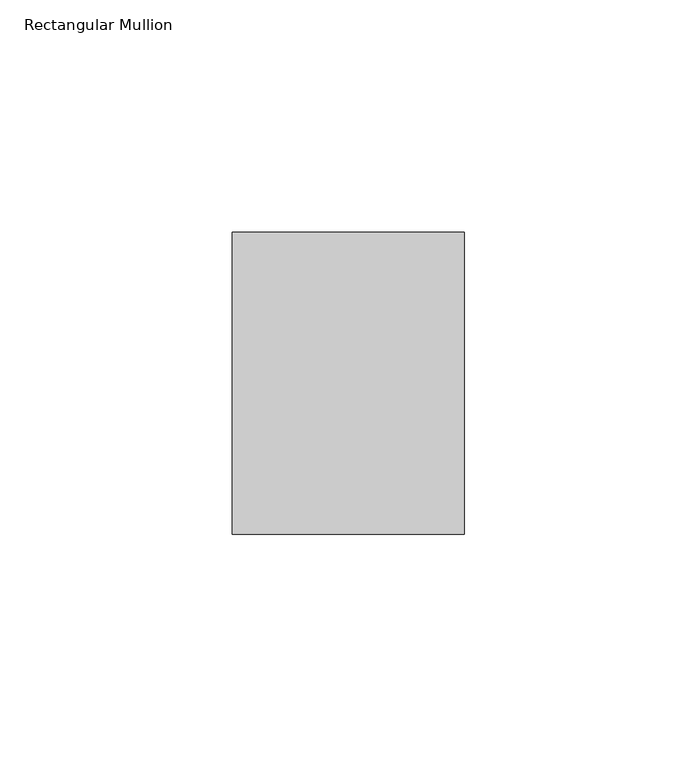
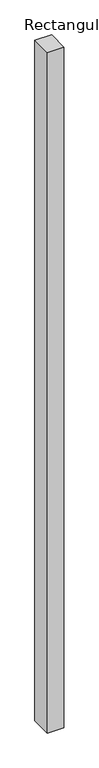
"""IFC4 building model written with IfcOpenShell, lengths in millimetres: member geometry, Rectangular Mullion : MCGRORY - Forster Fuego Light - 60 Min Rated - Side Mullion A."""

from ifc_helpers import new_model, si_unit, frame, origin, place, context, project, spatial, polyline, outline, extrude, source, transform, mapped, element, save


def rectangular_mullion_ab93fa10(model_context):
    return source(origin(), model_context, "Body", "SweptSolid", [
        extrude(outline(polyline([(-49.9781277, 32.485783), (0.0, 32.485783), (0.0, -32.485783), (-49.9781277, -32.485783), (-49.9781277, 32.485783)])), frame((0.0, 0.0, -2163.6), z_axis=(0.0, 0.0, 1.0), x_axis=(1.0, 0.0, 0.0)), (0.0, 0.0, 1.0), 2163.6),
    ])


if __name__ == "__main__":
    model = new_model("IFC4")
    model_context = context("Model", 3, world=origin())
    ifc_project = project(units=[si_unit("LENGTHUNIT", "METRE", prefix="MILLI")], contexts=[model_context])
    site = spatial("IfcSite", under=ifc_project)
    building = spatial("IfcBuilding", under=site)
    placement = place(None, origin())
    rectangular_mullion_shape = rectangular_mullion_ab93fa10(model_context)
    element("IfcMember", 1, ObjectType="Rectangular Mullion : MCGRORY - Forster Fuego Light - 60 Min Rated - Side Mullion A", at=placement, inside=building, context=model_context, shape_type="MappedRepresentation", body=[
        mapped(rectangular_mullion_shape, transform((0.0, 0.0, 0.0), x_axis=(1.0, 0.0, 0.0), y_axis=(0.0, 1.0, 0.0), z_axis=(0.0, 0.0, 1.0))),
    ])
    save(model, "model.ifc")
